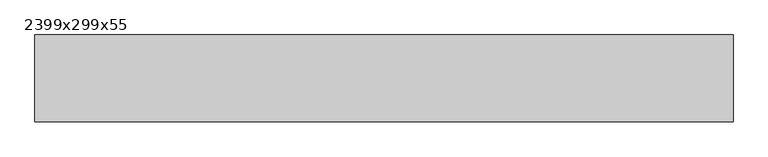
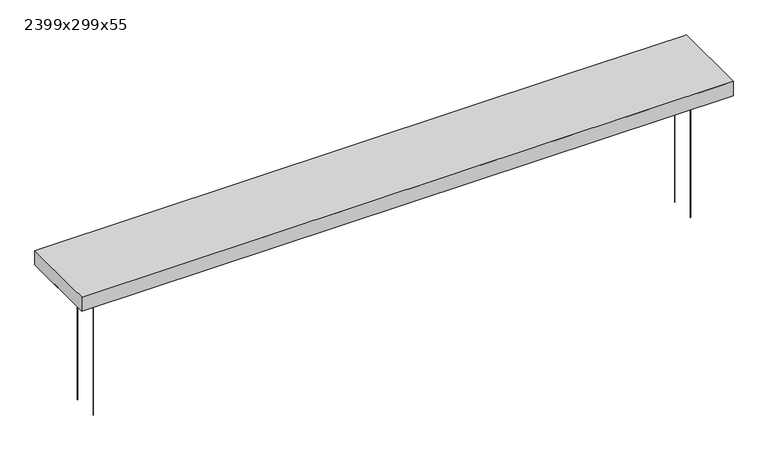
"""IFC4 building model written with IfcOpenShell, lengths in millimetres: proxy geometry, Texaa Panneaux_acoustiques Stereo suspendus_séparés : 2399x299x55."""

from ifc_helpers import new_model, si_unit, point, frame, frame_2d, origin, origin_with_axes, place, context, project, spatial, polyline, circle_curve, trimmed, segment, composite_curve, outline, extrude, faceted_brep, source, transform, mapped, element, save


def proxy_2399x299x55_a4a73a33(model_context):
    return source(origin(), model_context, "Body", "SolidModel", [
        extrude(outline(composite_curve([segment(trimmed(circle_curve(frame_2d((-1099.5, -49.5)), 0.75), [point((-1100.25, -49.5))], [point((-1098.75, -49.5))], False, "CARTESIAN"), True, "CONTINUOUS"), segment(trimmed(circle_curve(frame_2d((-1099.5, -49.5)), 0.75), [point((-1098.75, -49.5))], [point((-1100.25, -49.5))], False, "CARTESIAN"), True, "CONTINUOUS")], self_intersect=False)), origin_with_axes(), (0.0, 0.0, 1.0), 500.0),
        extrude(outline(composite_curve([segment(trimmed(circle_curve(frame_2d((1099.5, -49.5)), 0.75), [point((1098.75, -49.5))], [point((1100.25, -49.5))], False, "CARTESIAN"), True, "CONTINUOUS"), segment(trimmed(circle_curve(frame_2d((1099.5, -49.5)), 0.75), [point((1100.25, -49.5))], [point((1098.75, -49.5))], False, "CARTESIAN"), True, "CONTINUOUS")], self_intersect=False)), origin_with_axes(), (0.0, 0.0, 1.0), 500.0),
        extrude(outline(composite_curve([segment(trimmed(circle_curve(frame_2d((1099.5, 49.5)), 0.75), [point((1098.75, 49.5))], [point((1100.25, 49.5))], False, "CARTESIAN"), True, "CONTINUOUS"), segment(trimmed(circle_curve(frame_2d((1099.5, 49.5)), 0.75), [point((1100.25, 49.5))], [point((1098.75, 49.5))], False, "CARTESIAN"), True, "CONTINUOUS")], self_intersect=False)), origin_with_axes(), (0.0, 0.0, 1.0), 500.0),
        extrude(outline(composite_curve([segment(trimmed(circle_curve(frame_2d((-1099.5, 49.5)), 0.75), [point((-1100.25, 49.5))], [point((-1098.75, 49.5))], False, "CARTESIAN"), True, "CONTINUOUS"), segment(trimmed(circle_curve(frame_2d((-1099.5, 49.5)), 0.75), [point((-1098.75, 49.5))], [point((-1100.25, 49.5))], False, "CARTESIAN"), True, "CONTINUOUS")], self_intersect=False)), origin_with_axes(), (0.0, 0.0, 1.0), 500.0),
        extrude(outline(polyline([(-1198.5, -148.5), (-1198.5, 148.5), (1198.5, 148.5), (1198.5, -148.5), (-1198.5, -148.5)])), frame((0.0, 0.0, 501.0), z_axis=(0.0, 0.0, 1.0), x_axis=(1.0, 0.0, 0.0)), (0.0, 0.0, 1.0), 53.0),
        faceted_brep([(1199.5, 149.5, 555.0), (1191.4145111, 149.5, 555.0), (754.7981129, 149.5, 555.0), (-1199.5, 149.5, 555.0), (-1199.5, -94.0744626, 555.0), (-1199.5, -148.492263, 555.0), (-1199.5, -149.5, 555.0), (1199.5, -149.5, 555.0), (-1199.5, -149.5, 500.0), (-1199.5, 149.5, 500.0), (1199.5, 149.5, 500.0), (1199.5, -149.5, 500.0), (-1149.5, 99.5, 500.0), (-1149.5, -99.5, 500.0), (1149.5, -99.5, 500.0), (1149.5, 99.5, 500.0), (-1199.5, -149.5, 554.0), (1199.5, 149.5, 554.0), (1149.5, 99.5, 501.0), (-1149.5, 99.5, 501.0), (1149.5, -99.5, 501.0), (-1149.5, -99.5, 501.0), (1198.5, -148.5, 554.0), (-1191.4765886, -148.5, 554.0), (-1198.5, -148.5, 554.0), (-1198.5, -93.9498273, 554.0), (-1198.5, 148.5, 554.0), (746.7747016, 148.5, 554.0), (1183.3910998, 148.5, 554.0), (1191.4765886, 148.5, 554.0), (1198.5, 148.5, 554.0), (-1198.5, -148.5, 501.0), (1198.5, -148.5, 501.0), (1198.5, 148.5, 501.0), (-1198.5, 148.5, 501.0)], [[[0, 1, 2, 3, 4, 5, 6, 7]], [[8, 9, 10, 11], [12, 13, 14, 15]], [[8, 16, 6, 5, 4, 3, 9]], [[9, 3, 2, 1, 0, 17, 10]], [[7, 11, 10, 17, 0]], [[6, 16, 8, 11, 7]], [[12, 15, 18, 19]], [[15, 14, 20, 18]], [[14, 13, 21, 20]], [[19, 21, 13, 12]], [[22, 23, 24, 25, 26, 27, 28, 29, 30]], [[31, 32, 33, 34], [18, 20, 21, 19]], [[34, 26, 25, 24, 31]], [[33, 30, 29, 28, 27, 26, 34]], [[30, 33, 32, 22]], [[31, 24, 23, 22, 32]]]),
    ])


if __name__ == "__main__":
    model = new_model("IFC4")
    model_context = context("Model", 3, world=origin())
    ifc_project = project(units=[si_unit("LENGTHUNIT", "METRE", prefix="MILLI")], contexts=[model_context])
    site = spatial("IfcSite", under=ifc_project)
    building = spatial("IfcBuilding", under=site)
    placement = place(None, origin())
    proxy_2399x299x55_shape = proxy_2399x299x55_a4a73a33(model_context)
    element("IfcBuildingElementProxy", 1, Name="Texaa Panneaux_acoustiques Stereo suspendus_séparés : 2399x299x55", ObjectType="Texaa Panneaux_acoustiques Stereo suspendus_séparés : 2399x299x55", at=placement, inside=building, context=model_context, shape_type="MappedRepresentation", body=[
        mapped(proxy_2399x299x55_shape, transform((0.0, 0.0, 0.0), x_axis=(1.0, 0.0, 0.0), y_axis=(0.0, 1.0, 0.0), z_axis=(0.0, 0.0, 1.0))),
    ])
    save(model, "model.ifc")
